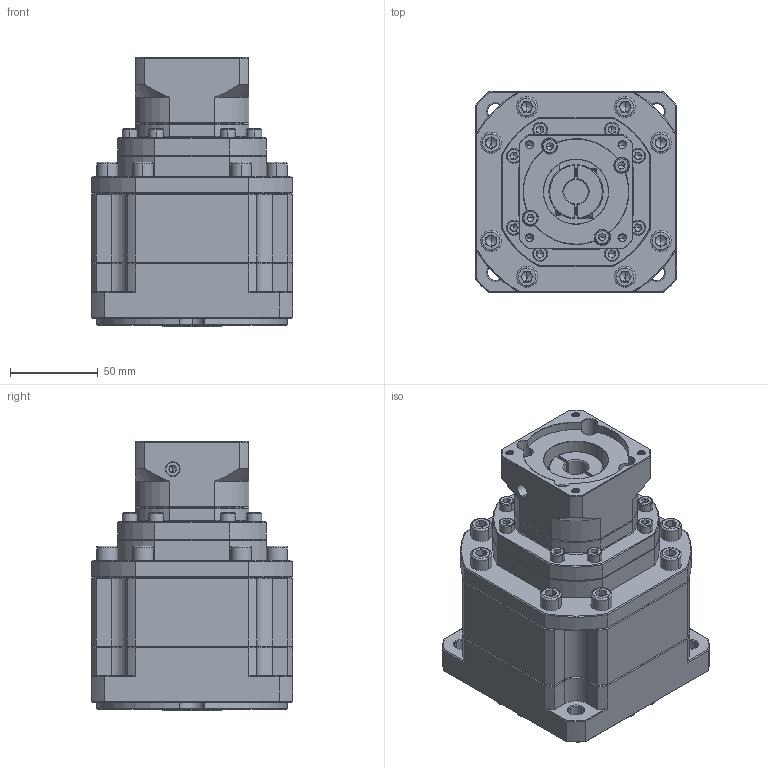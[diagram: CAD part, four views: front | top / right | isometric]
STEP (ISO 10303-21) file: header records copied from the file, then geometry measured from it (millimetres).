
FILE_DESCRIPTION (( 'STEP AP214' ), '1' );
FILE_NAME ('ZB115A-K25-L3-14-60-75-M5.step', '2023-03-03T09:58:54', ( '' ), ( 'Microsoft' ), 'SwSTEP 2.0', 'SolidWorks 2016', '' );
FILE_SCHEMA (( 'AUTOMOTIVE_DESIGN' ));
Length unit declared in the file: millimetre
Products named in the file (1): ZB115A-K25-L3-14-60-75-M5
Bounding box: 115 x 115 x 154 mm (x, y, z)
Volume: 1246405.6 mm3; surface area: 119628.5 mm2
Topology: 7 solids, 7 shells, 2234 faces, 5808 edges, 3679 vertices
Faces by surface type: plane 1119, cylinder 416, cone 341, bspline 336, torus 22
Entity records: 112082 total; most frequent: CARTESIAN_POINT 35444, ORIENTED_EDGE 11496, DIRECTION 9670, EDGE_CURVE 5748, VERTEX_POINT 3679, LINE 3608, VECTOR 3608, AXIS2_PLACEMENT_3D 3031
